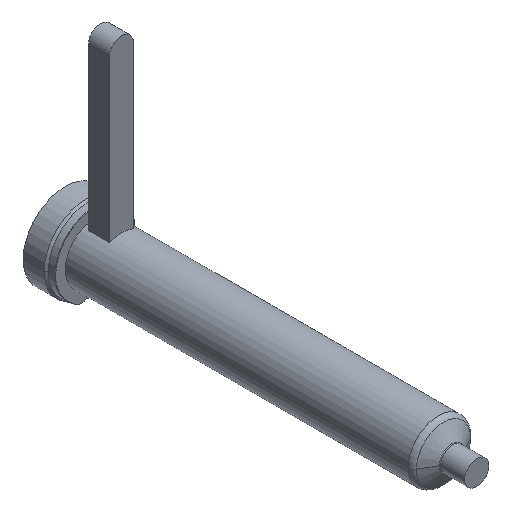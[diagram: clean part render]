
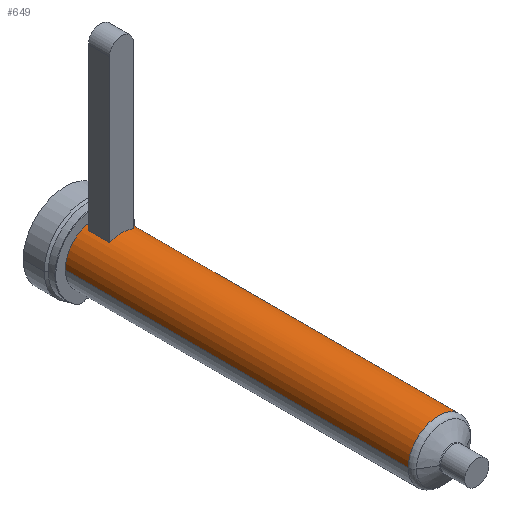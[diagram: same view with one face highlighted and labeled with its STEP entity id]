
A CAD part, isometric view. The second image highlights one B-rep face of the part: STEP entity #649.
In plain terms, the highlighted cylindrical face has radius 15 mm (diameter 30 mm), a partial arc.
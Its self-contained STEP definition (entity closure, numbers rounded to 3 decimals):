
#161=DIRECTION('',(0.,-1.,0.));
#162=VECTOR('',#161,170.783);
#163=CARTESIAN_POINT('',(15.,0.,0.));
#164=LINE('',#163,#162);
#165=CARTESIAN_POINT('',(0.,-170.783,0.));
#166=DIRECTION('',(0.,1.,0.));
#167=DIRECTION('',(-1.,0.,0.));
#168=AXIS2_PLACEMENT_3D('',#165,#166,#167);
#170=DIRECTION('',(0.,1.,0.));
#171=VECTOR('',#170,170.783);
#172=CARTESIAN_POINT('',(-15.,-170.783,0.));
#173=LINE('',#172,#171);
#174=CARTESIAN_POINT('',(0.,0.,0.));
#175=DIRECTION('',(0.,1.,0.));
#176=DIRECTION('',(-1.,0.,0.));
#177=AXIS2_PLACEMENT_3D('',#174,#175,#176);
#255=DIRECTION('',(0.,-1.,0.));
#256=VECTOR('',#255,10.5);
#257=CARTESIAN_POINT('',(-6.,-2.5,13.748));
#258=LINE('',#257,#256);
#263=CARTESIAN_POINT('',(0.,-13.,0.));
#264=DIRECTION('',(0.,1.,0.));
#265=DIRECTION('',(-0.4,0.,0.917));
#266=AXIS2_PLACEMENT_3D('',#263,#264,#265);
#298=CARTESIAN_POINT('',(0.,-2.5,0.));
#299=DIRECTION('',(0.,-1.,0.));
#300=DIRECTION('',(0.4,0.,0.917));
#301=AXIS2_PLACEMENT_3D('',#298,#299,#300);
#303=DIRECTION('',(0.,-1.,0.));
#304=VECTOR('',#303,10.5);
#305=CARTESIAN_POINT('',(6.,-2.5,13.748));
#306=LINE('',#305,#304);
#390=CARTESIAN_POINT('',(-15.,0.,0.));
#391=CARTESIAN_POINT('',(15.,0.,0.));
#392=VERTEX_POINT('',#390);
#393=VERTEX_POINT('',#391);
#402=CARTESIAN_POINT('',(6.,-2.5,13.748));
#403=VERTEX_POINT('',#402);
#404=CARTESIAN_POINT('',(-6.,-2.5,13.748));
#405=VERTEX_POINT('',#404);
#414=CARTESIAN_POINT('',(15.,-170.783,0.));
#415=VERTEX_POINT('',#414);
#424=CARTESIAN_POINT('',(-15.,-170.783,0.));
#425=VERTEX_POINT('',#424);
#426=CARTESIAN_POINT('',(-6.,-13.,13.748));
#427=CARTESIAN_POINT('',(6.,-13.,13.748));
#428=VERTEX_POINT('',#426);
#429=VERTEX_POINT('',#427);
#627=CARTESIAN_POINT('',(0.,16.4,0.));
#628=DIRECTION('',(0.,-1.,0.));
#629=DIRECTION('',(-1.,0.,0.));
#630=AXIS2_PLACEMENT_3D('',#627,#628,#629);
#631=CYLINDRICAL_SURFACE('',#630,15.);
#632=ORIENTED_EDGE('',*,*,#621,.T.);
#634=ORIENTED_EDGE('',*,*,#633,.F.);
#635=ORIENTED_EDGE('',*,*,#617,.T.);
#636=ORIENTED_EDGE('',*,*,#607,.T.);
#637=EDGE_LOOP('',(#632,#634,#635,#636));
#638=FACE_OUTER_BOUND('',#637,.F.);
#640=ORIENTED_EDGE('',*,*,#639,.T.);
#642=ORIENTED_EDGE('',*,*,#641,.T.);
#644=ORIENTED_EDGE('',*,*,#643,.F.);
#646=ORIENTED_EDGE('',*,*,#645,.T.);
#647=EDGE_LOOP('',(#640,#642,#644,#646));
#648=FACE_BOUND('',#647,.F.);
#649=ADVANCED_FACE('',(#638,#648),#631,.T.);
#169=CIRCLE('',#168,15.);
#178=CIRCLE('',#177,15.);
#267=CIRCLE('',#266,15.);
#302=CIRCLE('',#301,15.);
#607=EDGE_CURVE('',#392,#393,#178,.T.);
#617=EDGE_CURVE('',#425,#392,#173,.T.);
#621=EDGE_CURVE('',#393,#415,#164,.T.);
#633=EDGE_CURVE('',#425,#415,#169,.T.);
#639=EDGE_CURVE('',#405,#428,#258,.T.);
#641=EDGE_CURVE('',#428,#429,#267,.T.);
#643=EDGE_CURVE('',#403,#429,#306,.T.);
#645=EDGE_CURVE('',#403,#405,#302,.T.);
